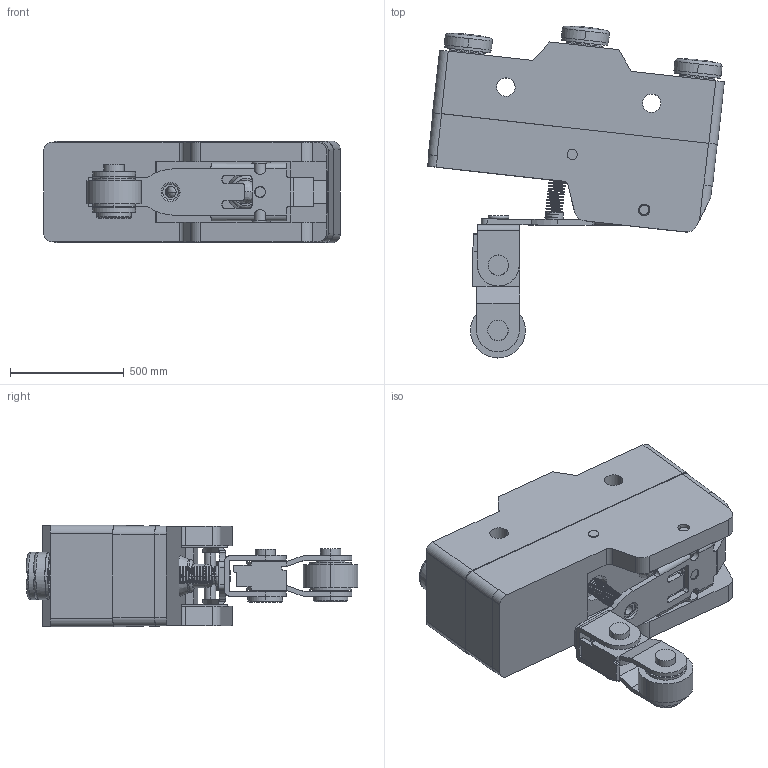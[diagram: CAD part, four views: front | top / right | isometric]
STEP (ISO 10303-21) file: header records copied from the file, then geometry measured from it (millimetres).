
FILE_DESCRIPTION((''),'2;1');
FILE_NAME('ASM0001_ASM','2016-07-20T',('Administrator'),(''),'PRO/ENGINEER BY PARAMETRIC TECHNOLOGY CORPORATION, 2012360','PRO/ENGINEER BY PARAMETRIC TECHNOLOGY CORPORATION, 2012360','');
FILE_SCHEMA(('CONFIG_CONTROL_DESIGN'));
Products named in the file (1): ASM0001_ASM
Bounding box: 1304.88 x 1459.5 x 447.04 mm (x, y, z)
Volume: 258366454.4 mm3; surface area: 8459530.9 mm2
Topology: 1 solids, 13 shells, 1160 faces, 3186 edges, 2083 vertices
Faces by surface type: cylinder 613, plane 381, bspline 75, torus 42, cone 28, sphere 21
Entity records: 52349 total; most frequent: CARTESIAN_POINT 23238, ORIENTED_EDGE 6364, DIRECTION 5842, EDGE_CURVE 3182, AXIS2_PLACEMENT_3D 2256, VERTEX_POINT 2083, VECTOR 1330, LINE 1330
